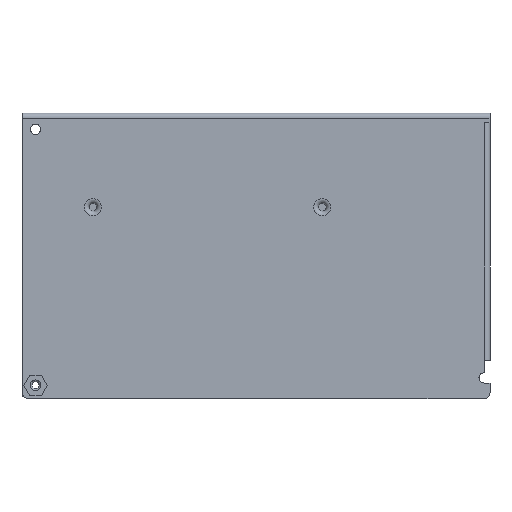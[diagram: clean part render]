
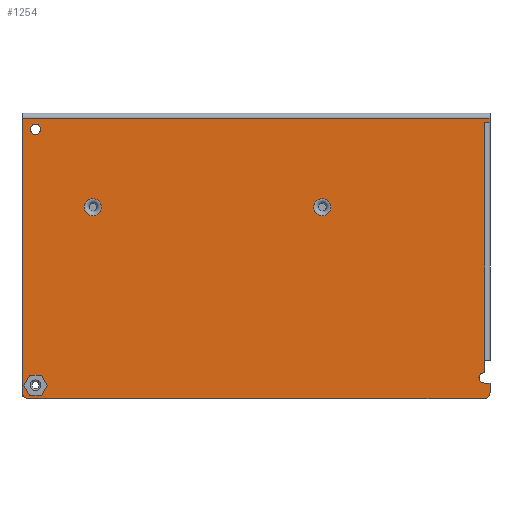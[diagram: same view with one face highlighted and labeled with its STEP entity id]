
A CAD part, front view. The second image highlights one B-rep face of the part: STEP entity #1254.
In plain terms, the highlighted planar face has unit normal (0, -1, 0).
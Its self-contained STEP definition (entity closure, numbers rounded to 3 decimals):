
#404=CARTESIAN_POINT('',(-79.0,-1.6,-44.));
#405=VERTEX_POINT('',#404);
#406=CARTESIAN_POINT('',(-77.0,-1.6,-40.536));
#407=VERTEX_POINT('',#406);
#408=CARTESIAN_POINT('',(-79.,-1.6,-44.));
#409=DIRECTION('',(0.5,0.0,0.866));
#410=VECTOR('',#409,4.);
#411=LINE('',#408,#410);
#412=EDGE_CURVE('',#405,#407,#411,.T.);
#444=CARTESIAN_POINT('',(-73.0,-1.6,-40.536));
#445=VERTEX_POINT('',#444);
#446=CARTESIAN_POINT('',(-77.0,-1.6,-40.536));
#447=DIRECTION('',(1.0,0.0,0.0));
#448=VECTOR('',#447,4.0);
#449=LINE('',#446,#448);
#450=EDGE_CURVE('',#407,#445,#449,.T.);
#475=CARTESIAN_POINT('',(-71.0,-1.6,-44.));
#476=VERTEX_POINT('',#475);
#477=CARTESIAN_POINT('',(-73.,-1.6,-40.536));
#478=DIRECTION('',(0.5,0.0,-0.866));
#479=VECTOR('',#478,4.);
#480=LINE('',#477,#479);
#481=EDGE_CURVE('',#445,#476,#480,.T.);
#506=CARTESIAN_POINT('',(-73.0,-1.6,-47.464));
#507=VERTEX_POINT('',#506);
#508=CARTESIAN_POINT('',(-71.0,-1.6,-44.));
#509=DIRECTION('',(-0.5,0.0,-0.866));
#510=VECTOR('',#509,4.);
#511=LINE('',#508,#510);
#512=EDGE_CURVE('',#476,#507,#511,.T.);
#537=CARTESIAN_POINT('',(-77.0,-1.6,-47.464));
#538=VERTEX_POINT('',#537);
#539=CARTESIAN_POINT('',(-73.0,-1.6,-47.464));
#540=DIRECTION('',(-1.0,0.0,0.0));
#541=VECTOR('',#540,4.0);
#542=LINE('',#539,#541);
#543=EDGE_CURVE('',#507,#538,#542,.T.);
#568=CARTESIAN_POINT('',(-77.0,-1.6,-47.464));
#569=DIRECTION('',(-0.5,0.0,0.866));
#570=VECTOR('',#569,4.);
#571=LINE('',#568,#570);
#572=EDGE_CURVE('',#538,#405,#571,.T.);
#1099=CARTESIAN_POINT('',(0.0,-1.6,0.0));
#1100=DIRECTION('',(0.0,1.0,0.0));
#1101=DIRECTION('',(0.0,0.0,1.0));
#1102=AXIS2_PLACEMENT_3D('',#1099,#1100,#1101);
#1103=PLANE('',#1102);
#1104=CARTESIAN_POINT('',(77.5,-1.6,-48.5));
#1105=VERTEX_POINT('',#1104);
#1106=CARTESIAN_POINT('',(79.5,-1.6,-46.5));
#1107=VERTEX_POINT('',#1106);
#1108=CARTESIAN_POINT('',(77.5,-1.6,-46.5));
#1109=DIRECTION('',(0.0,-1.0,0.0));
#1110=DIRECTION('',(0.0,0.0,-1.0));
#1111=AXIS2_PLACEMENT_3D('',#1108,#1109,#1110);
#1112=CIRCLE('',#1111,2.0);
#1113=EDGE_CURVE('',#1105,#1107,#1112,.T.);
#1114=ORIENTED_EDGE('',*,*,#1113,.T.);
#1115=CARTESIAN_POINT('',(79.5,-1.6,-43.25));
#1116=VERTEX_POINT('',#1115);
#1117=CARTESIAN_POINT('',(79.5,-1.6,-43.25));
#1118=DIRECTION('',(0.0,0.0,-1.0));
#1119=VECTOR('',#1118,3.25);
#1120=LINE('',#1117,#1119);
#1121=EDGE_CURVE('',#1116,#1107,#1120,.T.);
#1122=ORIENTED_EDGE('',*,*,#1121,.F.);
#1123=CARTESIAN_POINT('',(77.5,-1.6,-43.25));
#1124=VERTEX_POINT('',#1123);
#1125=CARTESIAN_POINT('',(79.5,-1.6,-43.25));
#1126=DIRECTION('',(-1.0,0.0,0.0));
#1127=VECTOR('',#1126,2.0);
#1128=LINE('',#1125,#1127);
#1129=EDGE_CURVE('',#1116,#1124,#1128,.T.);
#1130=ORIENTED_EDGE('',*,*,#1129,.T.);
#1131=CARTESIAN_POINT('',(77.5,-1.6,-39.75));
#1132=VERTEX_POINT('',#1131);
#1133=CARTESIAN_POINT('',(77.5,-1.6,-41.5));
#1134=DIRECTION('',(0.0,1.0,0.0));
#1135=DIRECTION('',(0.0,0.0,-1.0));
#1136=AXIS2_PLACEMENT_3D('',#1133,#1134,#1135);
#1137=CIRCLE('',#1136,1.75);
#1138=EDGE_CURVE('',#1124,#1132,#1137,.T.);
#1139=ORIENTED_EDGE('',*,*,#1138,.T.);
#1140=CARTESIAN_POINT('',(77.8,-1.6,-39.75));
#1141=VERTEX_POINT('',#1140);
#1142=CARTESIAN_POINT('',(77.8,-1.6,-39.75));
#1143=DIRECTION('',(-1.0,0.0,0.0));
#1144=VECTOR('',#1143,0.3);
#1145=LINE('',#1142,#1144);
#1146=EDGE_CURVE('',#1141,#1132,#1145,.T.);
#1147=ORIENTED_EDGE('',*,*,#1146,.F.);
#1148=CARTESIAN_POINT('',(77.8,-1.6,-35.5));
#1149=VERTEX_POINT('',#1148);
#1150=CARTESIAN_POINT('',(77.8,-1.6,-35.5));
#1151=DIRECTION('',(0.0,0.0,-1.0));
#1152=VECTOR('',#1151,4.25);
#1153=LINE('',#1150,#1152);
#1154=EDGE_CURVE('',#1149,#1141,#1153,.T.);
#1155=ORIENTED_EDGE('',*,*,#1154,.F.);
#1156=CARTESIAN_POINT('',(77.8,-1.6,45.3));
#1157=VERTEX_POINT('',#1156);
#1158=CARTESIAN_POINT('',(77.8,-1.6,45.3));
#1159=DIRECTION('',(0.0,0.0,-1.0));
#1160=VECTOR('',#1159,80.8);
#1161=LINE('',#1158,#1160);
#1162=EDGE_CURVE('',#1157,#1149,#1161,.T.);
#1163=ORIENTED_EDGE('',*,*,#1162,.F.);
#1164=CARTESIAN_POINT('',(79.5,-1.6,45.3));
#1165=VERTEX_POINT('',#1164);
#1166=CARTESIAN_POINT('',(77.8,-1.6,45.3));
#1167=DIRECTION('',(1.0,0.0,0.0));
#1168=VECTOR('',#1167,1.7);
#1169=LINE('',#1166,#1168);
#1170=EDGE_CURVE('',#1157,#1165,#1169,.T.);
#1171=ORIENTED_EDGE('',*,*,#1170,.T.);
#1172=CARTESIAN_POINT('',(79.5,-1.6,46.8));
#1173=VERTEX_POINT('',#1172);
#1174=CARTESIAN_POINT('',(79.5,-1.6,46.8));
#1175=DIRECTION('',(0.0,0.0,-1.0));
#1176=VECTOR('',#1175,1.5);
#1177=LINE('',#1174,#1176);
#1178=EDGE_CURVE('',#1173,#1165,#1177,.T.);
#1179=ORIENTED_EDGE('',*,*,#1178,.F.);
#1180=CARTESIAN_POINT('',(-79.5,-1.6,46.8));
#1181=VERTEX_POINT('',#1180);
#1182=CARTESIAN_POINT('',(-79.5,-1.6,46.8));
#1183=DIRECTION('',(1.0,0.0,0.0));
#1184=VECTOR('',#1183,159.0);
#1185=LINE('',#1182,#1184);
#1186=EDGE_CURVE('',#1181,#1173,#1185,.T.);
#1187=ORIENTED_EDGE('',*,*,#1186,.F.);
#1188=CARTESIAN_POINT('',(-79.5,-1.6,-46.5));
#1189=VERTEX_POINT('',#1188);
#1190=CARTESIAN_POINT('',(-79.5,-1.6,-46.5));
#1191=DIRECTION('',(0.0,0.0,1.0));
#1192=VECTOR('',#1191,93.3);
#1193=LINE('',#1190,#1192);
#1194=EDGE_CURVE('',#1189,#1181,#1193,.T.);
#1195=ORIENTED_EDGE('',*,*,#1194,.F.);
#1196=CARTESIAN_POINT('',(-77.5,-1.6,-48.5));
#1197=VERTEX_POINT('',#1196);
#1198=CARTESIAN_POINT('',(-77.5,-1.6,-46.5));
#1199=DIRECTION('',(0.0,-1.0,0.0));
#1200=DIRECTION('',(-1.0,0.0,0.0));
#1201=AXIS2_PLACEMENT_3D('',#1198,#1199,#1200);
#1202=CIRCLE('',#1201,2.0);
#1203=EDGE_CURVE('',#1189,#1197,#1202,.T.);
#1204=ORIENTED_EDGE('',*,*,#1203,.T.);
#1205=CARTESIAN_POINT('',(77.5,-1.6,-48.5));
#1206=DIRECTION('',(-1.0,0.0,0.0));
#1207=VECTOR('',#1206,155.0);
#1208=LINE('',#1205,#1207);
#1209=EDGE_CURVE('',#1105,#1197,#1208,.T.);
#1210=ORIENTED_EDGE('',*,*,#1209,.F.);
#1211=EDGE_LOOP('',(#1114,#1122,#1130,#1139,#1147,#1155,#1163,#1171,#1179,#1187,#1195,#1204,#1210));
#1212=FACE_OUTER_BOUND('',#1211,.T.);
#1213=ORIENTED_EDGE('',*,*,#412,.T.);
#1214=ORIENTED_EDGE('',*,*,#450,.T.);
#1215=ORIENTED_EDGE('',*,*,#481,.T.);
#1216=ORIENTED_EDGE('',*,*,#512,.T.);
#1217=ORIENTED_EDGE('',*,*,#543,.T.);
#1218=ORIENTED_EDGE('',*,*,#572,.T.);
#1219=EDGE_LOOP('',(#1213,#1214,#1215,#1216,#1217,#1218));
#1220=FACE_BOUND('',#1219,.T.);
#1221=CARTESIAN_POINT('',(-75.0,-1.6,44.75));
#1222=VERTEX_POINT('',#1221);
#1223=CARTESIAN_POINT('',(-75.0,-1.6,43.0));
#1224=DIRECTION('',(0.0,1.0,0.0));
#1225=DIRECTION('',(0.0,0.0,1.0));
#1226=AXIS2_PLACEMENT_3D('',#1223,#1224,#1225);
#1227=CIRCLE('',#1226,1.75);
#1228=EDGE_CURVE('',#1222,#1222,#1227,.T.);
#1229=ORIENTED_EDGE('',*,*,#1228,.T.);
#1230=EDGE_LOOP('',(#1229));
#1231=FACE_BOUND('',#1230,.T.);
#1232=CARTESIAN_POINT('',(22.5,-1.6,19.425));
#1233=VERTEX_POINT('',#1232);
#1234=CARTESIAN_POINT('',(22.5,-1.6,16.5));
#1235=DIRECTION('',(0.0,-1.0,0.0));
#1236=DIRECTION('',(0.0,0.0,-1.0));
#1237=AXIS2_PLACEMENT_3D('',#1234,#1235,#1236);
#1238=CIRCLE('',#1237,2.925);
#1239=EDGE_CURVE('',#1233,#1233,#1238,.T.);
#1240=ORIENTED_EDGE('',*,*,#1239,.F.);
#1241=EDGE_LOOP('',(#1240));
#1242=FACE_BOUND('',#1241,.T.);
#1243=CARTESIAN_POINT('',(-55.5,-1.6,19.425));
#1244=VERTEX_POINT('',#1243);
#1245=CARTESIAN_POINT('',(-55.5,-1.6,16.5));
#1246=DIRECTION('',(0.0,-1.0,0.0));
#1247=DIRECTION('',(0.0,0.0,1.0));
#1248=AXIS2_PLACEMENT_3D('',#1245,#1246,#1247);
#1249=CIRCLE('',#1248,2.925);
#1250=EDGE_CURVE('',#1244,#1244,#1249,.T.);
#1251=ORIENTED_EDGE('',*,*,#1250,.F.);
#1252=EDGE_LOOP('',(#1251));
#1253=FACE_BOUND('',#1252,.T.);
#1254=ADVANCED_FACE('',(#1212,#1220,#1231,#1242,#1253),#1103,.F.);
